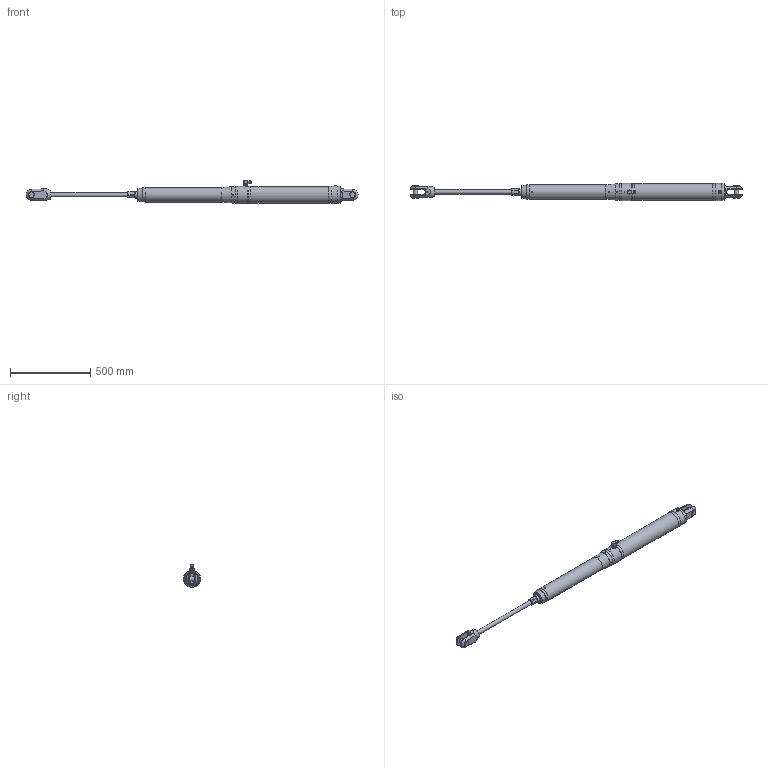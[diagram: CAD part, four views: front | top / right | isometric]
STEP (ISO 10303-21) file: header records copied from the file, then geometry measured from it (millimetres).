
FILE_DESCRIPTION(/* description */ (''),/* implementation_level */ '2;1');
FILE_NAME(/* name */ 'Q:\AA BRAND HYDRAULICS\HYDRAULICS FAMILY DIRECTORY\HYDRAULICS\CYLINDERS\MECHANICAL LOCK RAMS\ALUMINIUM - STAINLESS SINGLE ACTING (-0012 To -0150)\MSA-0048-S0475-NP-71\MSA-0048-S0475-NP-71 (Open).stp',/* time_stamp */ '2018-04-25T16:33:30+01:00',/* author */ ('Lorena'),/* organization */ (''),/* preprocessor_version */ 'ST-DEVELOPER v17',/* originating_system */ 'Autodesk Inventor 2018',/* authorisation */ '');
FILE_SCHEMA (('AUTOMOTIVE_DESIGN { 1 0 10303 214 3 1 1 }'));
Length unit declared in the file: millimetre
Products named in the file (1): MSA-0048-S0475-NP-71 (Open)
Bounding box: 2073.37 x 107.2 x 142.75 mm (x, y, z)
Volume: 10726590.3 mm3; surface area: 552511.8 mm2
Topology: 2 solids, 4 shells, 493 faces, 1291 edges, 840 vertices
Faces by surface type: plane 279, cone 124, cylinder 76, torus 6, sphere 4, bspline 4
Full cylindrical faces by diameter (mm): 4 x1, 4.134 x1, 4.2 x3, 5 x2, 6 x4, 7 x1, 7.5 x1, 8.1 x1, 9 x1, 10 x2, 14 x1, 14.35 x1, 14.662 x1, 15 x2, 15.662 x1, 16 x2, 16.662 x2, 18 x2, 21.4 x3, 25 x1, 25.5 x1, 28.58 x2, 35.725 x2, 40 x2, 41 x2, 44 x1, 90 x1, 104.2 x1, 107.2 x4
Entity records: 16632 total; most frequent: CARTESIAN_POINT 4122, ORIENTED_EDGE 2564, DIRECTION 2497, EDGE_CURVE 1282, AXIS2_PLACEMENT_3D 960, VERTEX_POINT 841, LINE 577, VECTOR 577
